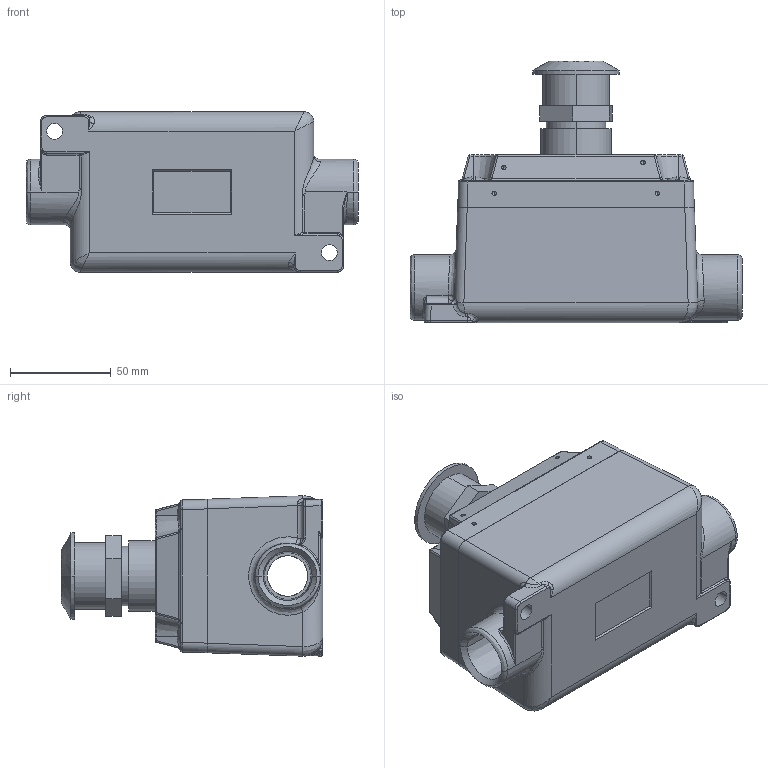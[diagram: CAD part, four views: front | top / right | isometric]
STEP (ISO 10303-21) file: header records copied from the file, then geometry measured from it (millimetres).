
FILE_DESCRIPTION (( 'STEP AP214' ), '1' );
FILE_NAME ('EPS-PB10-2XC.STEP', '2020-12-02T19:26:29', ( '' ), ( '' ), 'SwSTEP 2.0', 'SolidWorks 2020', '' );
FILE_SCHEMA (( 'AUTOMOTIVE_DESIGN' ));
Length unit declared in the file: inch
Products named in the file (5): oval head_ai_SL-OHMS 0.25-20x0.75x0.75-N; Top; Push Button; EPS-PB10-2XC; Body
Assembly tree (7 placements, depth 2):
  EPS-PB10-2XC
    Body
    Top
    Push Button
    oval head_ai_SL-OHMS 0.25-20x0.75x0.75-N  x4
Bounding box: 164.88 x 129.9 x 79.61 mm (x, y, z)
Volume: 379747.7 mm3; surface area: 113065.5 mm2
Topology: 7 solids, 7 shells, 591 faces, 1486 edges, 828 vertices
Faces by surface type: bspline 216, cylinder 189, plane 100, cone 66, sphere 16, torus 4
Entity records: 23913 total; most frequent: CARTESIAN_POINT 12379, ORIENTED_EDGE 2614, DIRECTION 1966, EDGE_CURVE 1307, VERTEX_POINT 774, AXIS2_PLACEMENT_3D 768, EDGE_LOOP 589, ADVANCED_FACE 555
